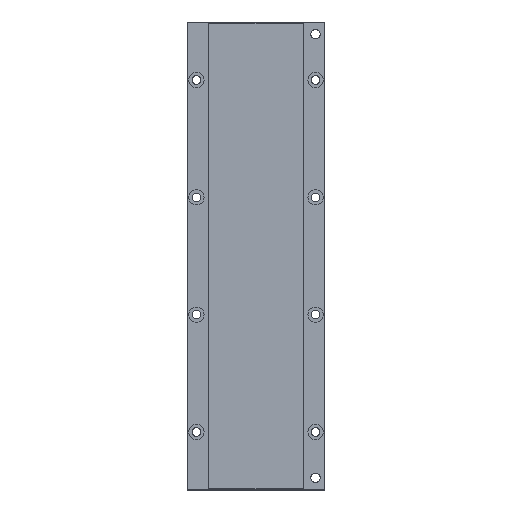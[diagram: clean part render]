
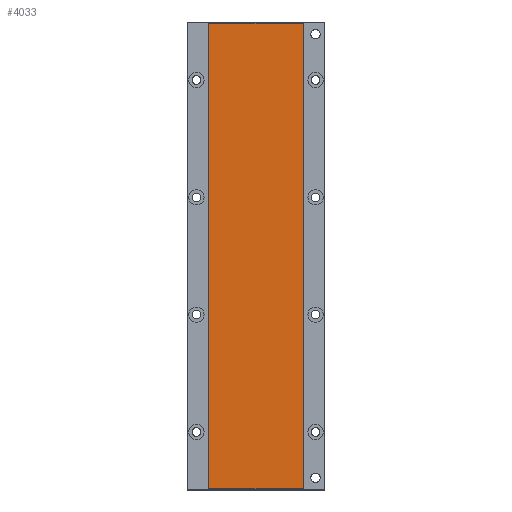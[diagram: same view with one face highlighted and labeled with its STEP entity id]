
A CAD part, top view. The second image highlights one B-rep face of the part: STEP entity #4033.
In plain terms, the highlighted planar face has unit normal (0, 0, 1).
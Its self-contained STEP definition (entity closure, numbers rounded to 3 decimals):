
#1386=DIRECTION('',(-1.,0.,0.));
#1387=VECTOR('',#1386,51.5);
#1388=CARTESIAN_POINT('',(25.75,127.,8.25));
#1389=LINE('',#1388,#1387);
#1406=DIRECTION('',(-1.,0.,0.));
#1407=VECTOR('',#1406,51.5);
#1408=CARTESIAN_POINT('',(25.75,-127.,8.25));
#1409=LINE('',#1408,#1407);
#1410=DIRECTION('',(0.,1.,0.));
#1411=VECTOR('',#1410,254.);
#1412=CARTESIAN_POINT('',(25.75,-127.,8.25));
#1413=LINE('',#1412,#1411);
#1414=DIRECTION('',(0.,1.,0.));
#1415=VECTOR('',#1414,254.);
#1416=CARTESIAN_POINT('',(-25.75,-127.,8.25));
#1417=LINE('',#1416,#1415);
#1850=CARTESIAN_POINT('',(25.75,-127.,8.25));
#1851=VERTEX_POINT('',#1850);
#1856=CARTESIAN_POINT('',(-25.75,-127.,8.25));
#1857=VERTEX_POINT('',#1856);
#1858=CARTESIAN_POINT('',(25.75,127.,8.25));
#1859=VERTEX_POINT('',#1858);
#1864=CARTESIAN_POINT('',(-25.75,127.,8.25));
#1865=VERTEX_POINT('',#1864);
#4020=CARTESIAN_POINT('',(0.,0.,8.25));
#4021=DIRECTION('',(0.,0.,1.));
#4022=DIRECTION('',(0.,-1.,0.));
#4023=AXIS2_PLACEMENT_3D('',#4020,#4021,#4022);
#4024=PLANE('',#4023);
#4025=ORIENTED_EDGE('',*,*,#3962,.T.);
#4027=ORIENTED_EDGE('',*,*,#4026,.T.);
#4028=ORIENTED_EDGE('',*,*,#4005,.F.);
#4030=ORIENTED_EDGE('',*,*,#4029,.F.);
#4031=EDGE_LOOP('',(#4025,#4027,#4028,#4030));
#4032=FACE_OUTER_BOUND('',#4031,.F.);
#4033=ADVANCED_FACE('',(#4032),#4024,.T.);
#3962=EDGE_CURVE('',#1851,#1857,#1409,.T.);
#4005=EDGE_CURVE('',#1859,#1865,#1389,.T.);
#4026=EDGE_CURVE('',#1857,#1865,#1417,.T.);
#4029=EDGE_CURVE('',#1851,#1859,#1413,.T.);
